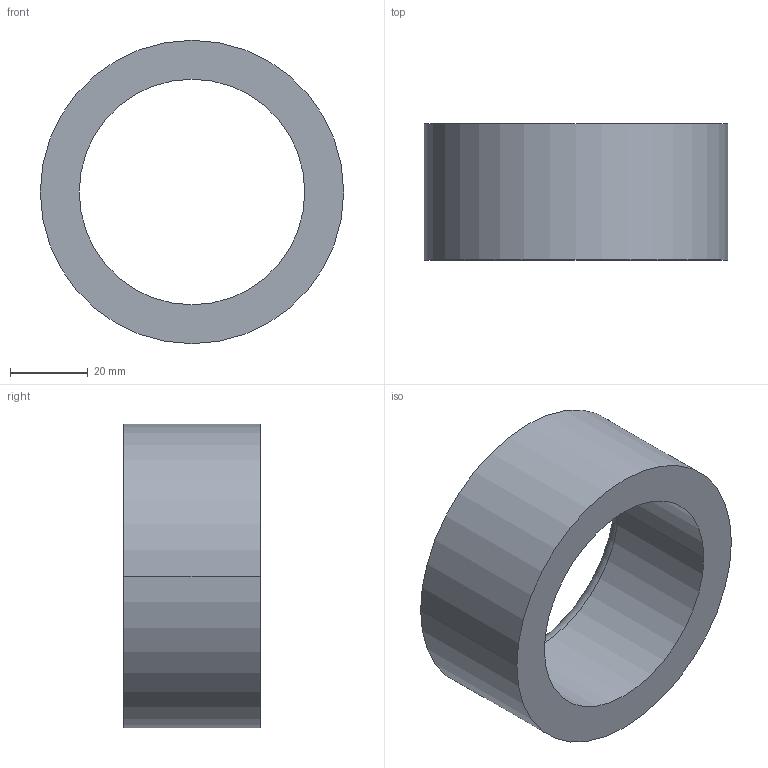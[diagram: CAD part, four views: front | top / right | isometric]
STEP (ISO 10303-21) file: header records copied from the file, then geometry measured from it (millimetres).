
FILE_DESCRIPTION (( 'STEP AP203' ), '1' );
FILE_NAME ('30800.WPP78M58.0.step', '2019-01-23T23:02:58', ( '' ), ( '' ), 'SwSTEP 2.0', 'SolidWorks 2017', '' );
FILE_SCHEMA (( 'CONFIG_CONTROL_DESIGN' ));
Length unit declared in the file: millimetre
Products named in the file (1): 30800.WPP78M58.0
Bounding box: 78 x 35 x 78 mm (x, y, z)
Volume: 74125 mm3; surface area: 18920.8 mm2
Topology: 1 solids, 1 shells, 8 faces, 16 edges, 10 vertices
Faces by surface type: cylinder 4, torus 2, plane 2
Entity records: 297 total; most frequent: DIRECTION 46, CARTESIAN_POINT 35, ORIENTED_EDGE 32, AXIS2_PLACEMENT_3D 21, EDGE_CURVE 16, CIRCLE 12, VERTEX_POINT 10, EDGE_LOOP 10
